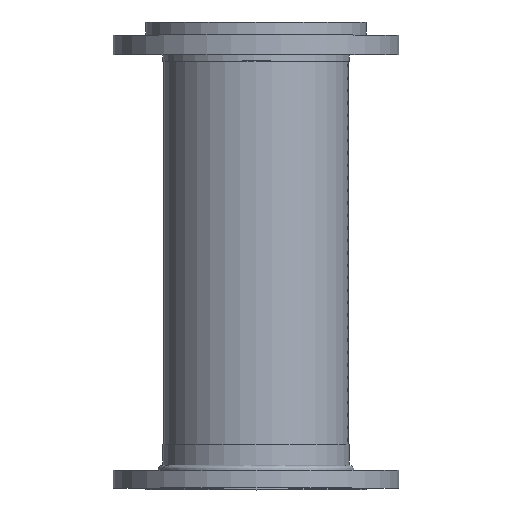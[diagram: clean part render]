
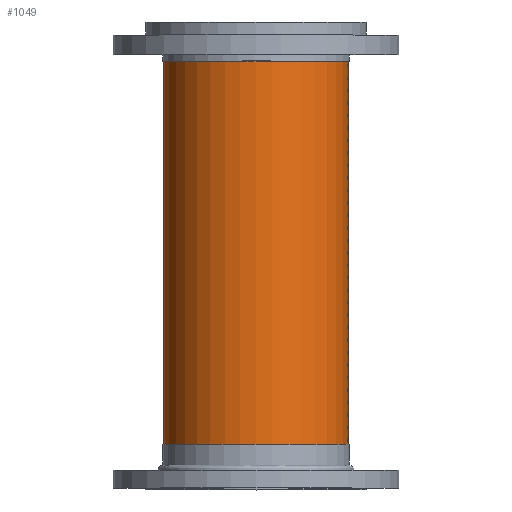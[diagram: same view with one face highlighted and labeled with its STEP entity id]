
A CAD part, top view. The second image highlights one B-rep face of the part: STEP entity #1049.
In plain terms, the highlighted cylindrical face has radius 90.043 mm (diameter 180.086 mm), a full revolution.
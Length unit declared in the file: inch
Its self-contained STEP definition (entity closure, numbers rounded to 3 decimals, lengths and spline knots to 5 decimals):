
#1015=CARTESIAN_POINT('',(-3.545,-8.375,0.));
#1016=VERTEX_POINT('',#1015);
#1017=CARTESIAN_POINT('',(0.0,-8.375,0.0));
#1018=DIRECTION('',(0.0,1.0,0.0));
#1019=DIRECTION('',(1.0,0.0,0.0));
#1020=AXIS2_PLACEMENT_3D('',#1017,#1018,#1019);
#1021=CIRCLE('',#1020,3.545);
#1022=EDGE_CURVE('',#1016,#1016,#1021,.T.);
#1030=CARTESIAN_POINT('',(0.0,0.0,0.0));
#1031=DIRECTION('',(0.0,1.0,0.0));
#1032=DIRECTION('',(1.0,0.0,0.0));
#1033=AXIS2_PLACEMENT_3D('',#1030,#1031,#1032);
#1034=CYLINDRICAL_SURFACE('',#1033,3.545);
#1035=ORIENTED_EDGE('',*,*,#1022,.T.);
#1036=EDGE_LOOP('',(#1035));
#1037=FACE_OUTER_BOUND('',#1036,.T.);
#1038=CARTESIAN_POINT('',(-3.545,8.375,0.));
#1039=VERTEX_POINT('',#1038);
#1040=CARTESIAN_POINT('',(0.0,8.375,0.0));
#1041=DIRECTION('',(0.0,-1.0,0.0));
#1042=DIRECTION('',(1.0,0.0,0.0));
#1043=AXIS2_PLACEMENT_3D('',#1040,#1041,#1042);
#1044=CIRCLE('',#1043,3.545);
#1045=EDGE_CURVE('',#1039,#1039,#1044,.T.);
#1046=ORIENTED_EDGE('',*,*,#1045,.T.);
#1047=EDGE_LOOP('',(#1046));
#1048=FACE_BOUND('',#1047,.T.);
#1049=ADVANCED_FACE('',(#1037,#1048),#1034,.T.);
